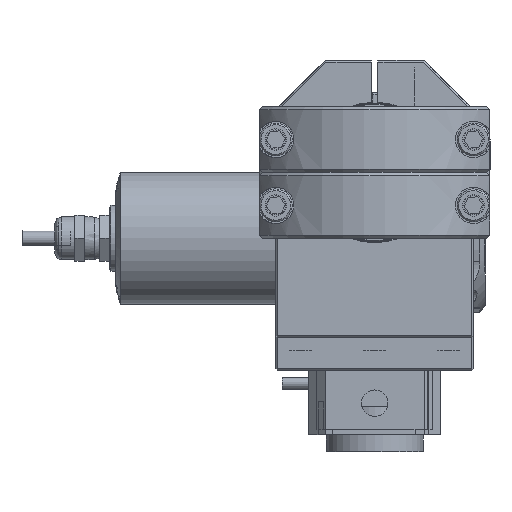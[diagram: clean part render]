
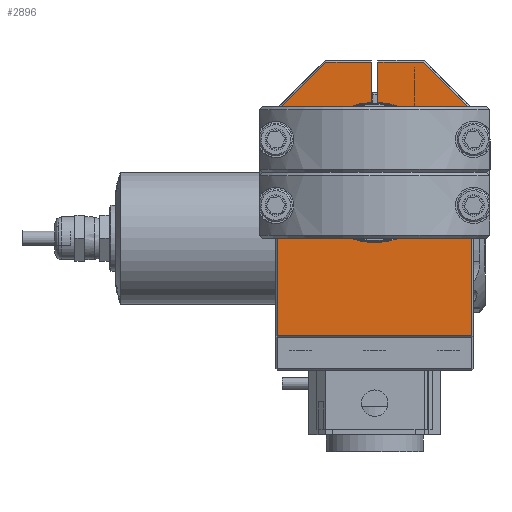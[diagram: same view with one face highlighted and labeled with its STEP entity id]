
A CAD part, left-side view. The second image highlights one B-rep face of the part: STEP entity #2896.
In plain terms, the highlighted planar face has unit normal (-1, 0, 0) as drawn and (1, 0, 0) by its records, which use the part's own axes.
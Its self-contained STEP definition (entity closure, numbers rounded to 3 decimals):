
#2896 = ADVANCED_FACE( '', ( #5937 ), #5938, .T. );
#5937 = FACE_OUTER_BOUND( '', #9887, .T. );
#5938 = PLANE( '', #9888 );
#9887 = EDGE_LOOP( '', ( #18856, #18857, #18858, #18859, #18860, #18861, #18862, #18863, #18864, #18865 ) );
#9888 = AXIS2_PLACEMENT_3D( '', #18866, #18867, #18868 );
#18856 = ORIENTED_EDGE( '', *, *, #24953, .F. );
#18857 = ORIENTED_EDGE( '', *, *, #24889, .T. );
#18858 = ORIENTED_EDGE( '', *, *, #26182, .F. );
#18859 = ORIENTED_EDGE( '', *, *, #26183, .T. );
#18860 = ORIENTED_EDGE( '', *, *, #26184, .T. );
#18861 = ORIENTED_EDGE( '', *, *, #26110, .T. );
#18862 = ORIENTED_EDGE( '', *, *, #26155, .T. );
#18863 = ORIENTED_EDGE( '', *, *, #26185, .T. );
#18864 = ORIENTED_EDGE( '', *, *, #26186, .T. );
#18865 = ORIENTED_EDGE( '', *, *, #25139, .T. );
#18866 = CARTESIAN_POINT( '', ( 20., -30., -42. ) );
#18867 = DIRECTION( '', ( 1., 0., 0. ) );
#18868 = DIRECTION( '', ( 0., 1., 0. ) );
#24889 = EDGE_CURVE( '', #30097, #30101, #30103, .F. );
#24953 = EDGE_CURVE( '', #30097, #30213, #30214, .T. );
#25139 = EDGE_CURVE( '', #30538, #30213, #30539, .T. );
#26110 = EDGE_CURVE( '', #32123, #32121, #32124, .T. );
#26155 = EDGE_CURVE( '', #32121, #32188, #32190, .T. );
#26182 = EDGE_CURVE( '', #32228, #30101, #32229, .T. );
#26183 = EDGE_CURVE( '', #32228, #32230, #32231, .T. );
#26184 = EDGE_CURVE( '', #32230, #32123, #32232, .T. );
#26185 = EDGE_CURVE( '', #32188, #32233, #32234, .T. );
#26186 = EDGE_CURVE( '', #32233, #30538, #32235, .T. );
#30097 = VERTEX_POINT( '', #36972 );
#30101 = VERTEX_POINT( '', #36979 );
#30103 = CIRCLE( '', #36984, 21.3 );
#30213 = VERTEX_POINT( '', #37143 );
#30214 = LINE( '', #37144, #37145 );
#30538 = VERTEX_POINT( '', #37617 );
#30539 = LINE( '', #37618, #37619 );
#32121 = VERTEX_POINT( '', #41671 );
#32123 = VERTEX_POINT( '', #41674 );
#32124 = LINE( '', #41675, #41676 );
#32188 = VERTEX_POINT( '', #41758 );
#32190 = LINE( '', #41761, #41762 );
#32228 = VERTEX_POINT( '', #41814 );
#32229 = LINE( '', #41815, #41816 );
#32230 = VERTEX_POINT( '', #41817 );
#32231 = LINE( '', #41818, #41819 );
#32232 = LINE( '', #41820, #41821 );
#32233 = VERTEX_POINT( '', #41822 );
#32234 = LINE( '', #41823, #41824 );
#32235 = LINE( '', #41825, #41826 );
#36972 = CARTESIAN_POINT( '', ( 20., 1., 29.277 ) );
#36979 = CARTESIAN_POINT( '', ( 20., -1., 29.277 ) );
#36984 = AXIS2_PLACEMENT_3D( '', #54055, #54056, #54057 );
#37143 = CARTESIAN_POINT( '', ( 20., 1., 41.5 ) );
#37144 = CARTESIAN_POINT( '', ( 20., 1., 22. ) );
#37145 = VECTOR( '', #54136, 1000. );
#37617 = CARTESIAN_POINT( '', ( 20., 14.793, 41.5 ) );
#37618 = CARTESIAN_POINT( '', ( 20., -15., 41.5 ) );
#37619 = VECTOR( '', #54373, 1000. );
#41671 = CARTESIAN_POINT( '', ( 20., -29.5, -41.5 ) );
#41674 = CARTESIAN_POINT( '', ( 20., -29.5, 26.793 ) );
#41675 = CARTESIAN_POINT( '', ( 20., -29.5, -42. ) );
#41676 = VECTOR( '', #55408, 1000. );
#41758 = CARTESIAN_POINT( '', ( 20., 29.5, -41.5 ) );
#41761 = CARTESIAN_POINT( '', ( 20., 30., -41.5 ) );
#41762 = VECTOR( '', #55467, 1000. );
#41814 = CARTESIAN_POINT( '', ( 20., -1., 41.5 ) );
#41815 = CARTESIAN_POINT( '', ( 20., -1., 42. ) );
#41816 = VECTOR( '', #55517, 1000. );
#41817 = CARTESIAN_POINT( '', ( 20., -14.793, 41.5 ) );
#41818 = CARTESIAN_POINT( '', ( 20., -15., 41.5 ) );
#41819 = VECTOR( '', #55518, 1000. );
#41820 = CARTESIAN_POINT( '', ( 20., -64.146, -7.854 ) );
#41821 = VECTOR( '', #55519, 1000. );
#41822 = CARTESIAN_POINT( '', ( 20., 29.5, 26.793 ) );
#41823 = CARTESIAN_POINT( '', ( 20., 29.5, 27. ) );
#41824 = VECTOR( '', #55520, 1000. );
#41825 = CARTESIAN_POINT( '', ( 20., 34.146, 22.146 ) );
#41826 = VECTOR( '', #55521, 1000. );
#54055 = CARTESIAN_POINT( '', ( 20., 0., 8. ) );
#54056 = DIRECTION( '', ( 1., 0., 0. ) );
#54057 = DIRECTION( '', ( 0., 1., 0. ) );
#54136 = DIRECTION( '', ( 0., 0., 1. ) );
#54373 = DIRECTION( '', ( 0., -1., 0. ) );
#55408 = DIRECTION( '', ( 0., 0., -1. ) );
#55467 = DIRECTION( '', ( 0., 1., 0. ) );
#55517 = DIRECTION( '', ( 0., 0., -1. ) );
#55518 = DIRECTION( '', ( 0., -1., 0. ) );
#55519 = DIRECTION( '', ( 0., -0.707, -0.707 ) );
#55520 = DIRECTION( '', ( 0., 0., 1. ) );
#55521 = DIRECTION( '', ( 0., -0.707, 0.707 ) );
